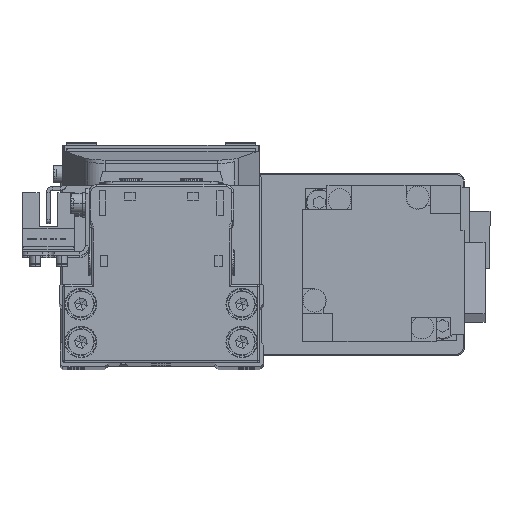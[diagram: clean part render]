
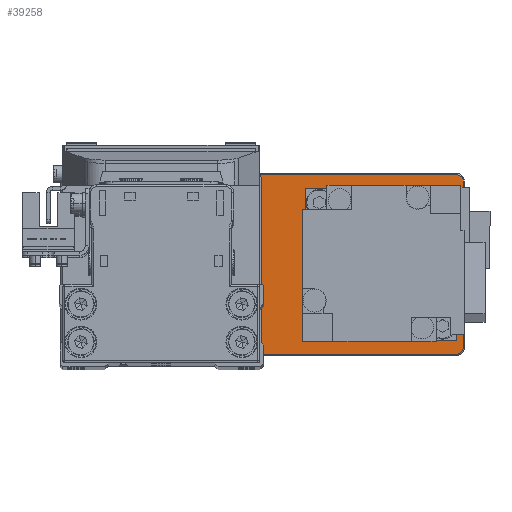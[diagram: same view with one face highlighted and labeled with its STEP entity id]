
A CAD part, top view. The second image highlights one B-rep face of the part: STEP entity #39258.
In plain terms, the highlighted planar face has unit normal (0, 0, 1).
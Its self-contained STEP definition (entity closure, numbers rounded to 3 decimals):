
#258 = DIRECTION ( 'NONE',  ( 0., 0., 1. ) ) ;
#486 = DIRECTION ( 'NONE',  ( 0., 0., -1. ) ) ;
#971 = EDGE_CURVE ( 'NONE', #8400, #26813, #27343, .T. ) ;
#1462 = VECTOR ( 'NONE', #10480, 1000. ) ;
#1834 = CARTESIAN_POINT ( 'NONE',  ( -17.7, 0., 5. ) ) ;
#1904 = VERTEX_POINT ( 'NONE', #34118 ) ;
#2203 = FACE_BOUND ( 'NONE', #4625, .T. ) ;
#3519 = EDGE_CURVE ( 'NONE', #3622, #34592, #31498, .T. ) ;
#3622 = VERTEX_POINT ( 'NONE', #28825 ) ;
#3694 = CIRCLE ( 'NONE', #26299, 12.8 ) ;
#4385 = CARTESIAN_POINT ( 'NONE',  ( 50., -23.7, 5. ) ) ;
#4625 = EDGE_LOOP ( 'NONE', ( #18761, #10695 ) ) ;
#5108 = CARTESIAN_POINT ( 'NONE',  ( -28., 0., 5. ) ) ;
#5313 = CARTESIAN_POINT ( 'NONE',  ( -50., 23.7, 5. ) ) ;
#5832 = DIRECTION ( 'NONE',  ( 0., 0., -1. ) ) ;
#6027 = AXIS2_PLACEMENT_3D ( 'NONE', #27999, #258, #12619 ) ;
#6307 = LINE ( 'NONE', #18670, #33244 ) ;
#7143 = CIRCLE ( 'NONE', #29747, 1.7 ) ;
#7802 = ORIENTED_EDGE ( 'NONE', *, *, #971, .T. ) ;
#8152 = DIRECTION ( 'NONE',  ( 0., 0., 1. ) ) ;
#8362 = CIRCLE ( 'NONE', #30999, 1.7 ) ;
#8400 = VERTEX_POINT ( 'NONE', #30223 ) ;
#8677 = DIRECTION ( 'NONE',  ( 1., 0., 0. ) ) ;
#9354 = DIRECTION ( 'NONE',  ( 1., 0., 0. ) ) ;
#9645 = EDGE_LOOP ( 'NONE', ( #23410, #34207, #30695, #27658, #36792, #20619, #7802, #10656 ) ) ;
#9848 = EDGE_CURVE ( 'NONE', #1904, #23395, #23490, .T. ) ;
#10480 = DIRECTION ( 'NONE',  ( 0., 1., 0. ) ) ;
#10656 = ORIENTED_EDGE ( 'NONE', *, *, #30417, .T. ) ;
#10695 = ORIENTED_EDGE ( 'NONE', *, *, #3519, .T. ) ;
#11225 = CIRCLE ( 'NONE', #33864, 10.3 ) ;
#11508 = CARTESIAN_POINT ( 'NONE',  ( 0., 0., 5. ) ) ;
#11966 = DIRECTION ( 'NONE',  ( 0., -1., 0. ) ) ;
#12355 = DIRECTION ( 'NONE',  ( 1., 0., 0. ) ) ;
#12619 = DIRECTION ( 'NONE',  ( 1., 0., 0. ) ) ;
#12848 = DIRECTION ( 'NONE',  ( 1., 0., 0. ) ) ;
#13190 = CARTESIAN_POINT ( 'NONE',  ( 50., 23.7, 5. ) ) ;
#13542 = CIRCLE ( 'NONE', #36162, 10.3 ) ;
#13662 = LINE ( 'NONE', #25993, #16883 ) ;
#14049 = AXIS2_PLACEMENT_3D ( 'NONE', #28224, #486, #12848 ) ;
#14267 = DIRECTION ( 'NONE',  ( 0., 0., 1. ) ) ;
#14565 = FACE_BOUND ( 'NONE', #22958, .T. ) ;
#16093 = EDGE_CURVE ( 'NONE', #34592, #3622, #3694, .T. ) ;
#16883 = VECTOR ( 'NONE', #38366, 1000. ) ;
#17472 = DIRECTION ( 'NONE',  ( 0., 0., -1. ) ) ;
#17635 = CARTESIAN_POINT ( 'NONE',  ( -50., -23.7, 5. ) ) ;
#18193 = DIRECTION ( 'NONE',  ( 1., 0., 0. ) ) ;
#18261 = AXIS2_PLACEMENT_3D ( 'NONE', #24065, #36419, #8677 ) ;
#18670 = CARTESIAN_POINT ( 'NONE',  ( -50., 23.7, 5. ) ) ;
#18761 = ORIENTED_EDGE ( 'NONE', *, *, #16093, .T. ) ;
#19969 = EDGE_CURVE ( 'NONE', #25985, #32048, #13662, .T. ) ;
#20048 = EDGE_CURVE ( 'NONE', #27001, #8400, #8362, .T. ) ;
#20055 = EDGE_CURVE ( 'NONE', #40016, #21418, #13542, .T. ) ;
#20503 = DIRECTION ( 'NONE',  ( 1., 0., 0. ) ) ;
#20547 = VERTEX_POINT ( 'NONE', #33213 ) ;
#20619 = ORIENTED_EDGE ( 'NONE', *, *, #20048, .T. ) ;
#21418 = VERTEX_POINT ( 'NONE', #26977 ) ;
#22958 = EDGE_LOOP ( 'NONE', ( #31669, #23227 ) ) ;
#23227 = ORIENTED_EDGE ( 'NONE', *, *, #31875, .T. ) ;
#23395 = VERTEX_POINT ( 'NONE', #13190 ) ;
#23410 = ORIENTED_EDGE ( 'NONE', *, *, #19969, .T. ) ;
#23490 = CIRCLE ( 'NONE', #6027, 1.7 ) ;
#23866 = DIRECTION ( 'NONE',  ( 0., 0., 1. ) ) ;
#24065 = CARTESIAN_POINT ( 'NONE',  ( -50., -22., 5. ) ) ;
#24739 = CARTESIAN_POINT ( 'NONE',  ( 30., 0., 5. ) ) ;
#25011 = VECTOR ( 'NONE', #11966, 1000. ) ;
#25839 = LINE ( 'NONE', #38220, #1462 ) ;
#25985 = VERTEX_POINT ( 'NONE', #17635 ) ;
#25993 = CARTESIAN_POINT ( 'NONE',  ( 50., -23.7, 5. ) ) ;
#26095 = EDGE_CURVE ( 'NONE', #32048, #20547, #7143, .T. ) ;
#26299 = AXIS2_PLACEMENT_3D ( 'NONE', #24739, #37097, #9354 ) ;
#26813 = VERTEX_POINT ( 'NONE', #35933 ) ;
#26890 = FACE_OUTER_BOUND ( 'NONE', #9645, .T. ) ;
#26977 = CARTESIAN_POINT ( 'NONE',  ( -38.3, 0., 5. ) ) ;
#27001 = VERTEX_POINT ( 'NONE', #5313 ) ;
#27343 = LINE ( 'NONE', #39709, #25011 ) ;
#27658 = ORIENTED_EDGE ( 'NONE', *, *, #9848, .T. ) ;
#27716 = CARTESIAN_POINT ( 'NONE',  ( 50., -22., 5. ) ) ;
#27999 = CARTESIAN_POINT ( 'NONE',  ( 50., 22., 5. ) ) ;
#28224 = CARTESIAN_POINT ( 'NONE',  ( 30., 0., 5. ) ) ;
#28825 = CARTESIAN_POINT ( 'NONE',  ( 17.2, 0., 5. ) ) ;
#29747 = AXIS2_PLACEMENT_3D ( 'NONE', #27716, #14267, #12355 ) ;
#29817 = DIRECTION ( 'NONE',  ( 1., 0., 0. ) ) ;
#30223 = CARTESIAN_POINT ( 'NONE',  ( -51.7, 22., 5. ) ) ;
#30417 = EDGE_CURVE ( 'NONE', #26813, #25985, #35707, .T. ) ;
#30689 = EDGE_CURVE ( 'NONE', #20547, #1904, #25839, .T. ) ;
#30695 = ORIENTED_EDGE ( 'NONE', *, *, #30689, .T. ) ;
#30999 = AXIS2_PLACEMENT_3D ( 'NONE', #35893, #8152, #20503 ) ;
#31018 = DIRECTION ( 'NONE',  ( -1., 0., 0. ) ) ;
#31498 = CIRCLE ( 'NONE', #14049, 12.8 ) ;
#31554 = AXIS2_PLACEMENT_3D ( 'NONE', #11508, #23866, #36214 ) ;
#31669 = ORIENTED_EDGE ( 'NONE', *, *, #20055, .T. ) ;
#31875 = EDGE_CURVE ( 'NONE', #21418, #40016, #11225, .T. ) ;
#32048 = VERTEX_POINT ( 'NONE', #4385 ) ;
#33213 = CARTESIAN_POINT ( 'NONE',  ( 51.7, -22., 5. ) ) ;
#33244 = VECTOR ( 'NONE', #31018, 1000. ) ;
#33563 = CARTESIAN_POINT ( 'NONE',  ( -28., 0., 5. ) ) ;
#33864 = AXIS2_PLACEMENT_3D ( 'NONE', #33563, #5832, #18193 ) ;
#34118 = CARTESIAN_POINT ( 'NONE',  ( 51.7, 22., 5. ) ) ;
#34207 = ORIENTED_EDGE ( 'NONE', *, *, #26095, .T. ) ;
#34592 = VERTEX_POINT ( 'NONE', #35574 ) ;
#35574 = CARTESIAN_POINT ( 'NONE',  ( 42.8, 0., 5. ) ) ;
#35707 = CIRCLE ( 'NONE', #18261, 1.7 ) ;
#35893 = CARTESIAN_POINT ( 'NONE',  ( -50., 22., 5. ) ) ;
#35933 = CARTESIAN_POINT ( 'NONE',  ( -51.7, -22., 5. ) ) ;
#36162 = AXIS2_PLACEMENT_3D ( 'NONE', #5108, #17472, #29817 ) ;
#36214 = DIRECTION ( 'NONE',  ( 1., 0., 0. ) ) ;
#36419 = DIRECTION ( 'NONE',  ( 0., 0., 1. ) ) ;
#36792 = ORIENTED_EDGE ( 'NONE', *, *, #38447, .T. ) ;
#37097 = DIRECTION ( 'NONE',  ( 0., 0., -1. ) ) ;
#38220 = CARTESIAN_POINT ( 'NONE',  ( 51.7, 22., 5. ) ) ;
#38366 = DIRECTION ( 'NONE',  ( 1., 0., 0. ) ) ;
#38447 = EDGE_CURVE ( 'NONE', #23395, #27001, #6307, .T. ) ;
#39247 = PLANE ( 'NONE',  #31554 ) ;
#39258 = ADVANCED_FACE ( 'NONE', ( #2203, #14565, #26890 ), #39247, .T. ) ;
#39709 = CARTESIAN_POINT ( 'NONE',  ( -51.7, -22., 5. ) ) ;
#40016 = VERTEX_POINT ( 'NONE', #1834 ) ;
